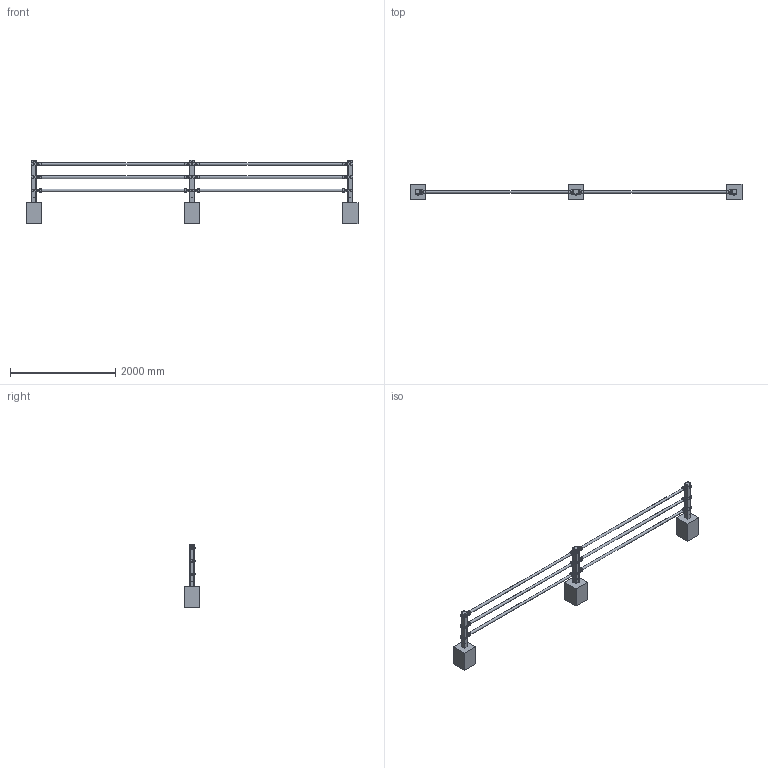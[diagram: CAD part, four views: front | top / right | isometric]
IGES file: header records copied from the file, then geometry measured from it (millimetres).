
Global section: file name: 07ロッドフェンスRF12-勾配タイプ,35HAutoCAD 2025 - 日本語 (; native system: Japanese); preprocessor: Autodesk Translation Framework DWG producer (atf_dwg_producer); organization: unknown; date: 20260406.110212; units: millimetre
Bounding box: 6300 x 300 x 1200 mm (x, y, z)
Volume: 126760989.3 mm3; surface area: 11072763.3 mm2
Topology: 237 solids, 237 shells, 4374 faces, 10938 edges, 7053 vertices
Faces by surface type: bspline 4374
